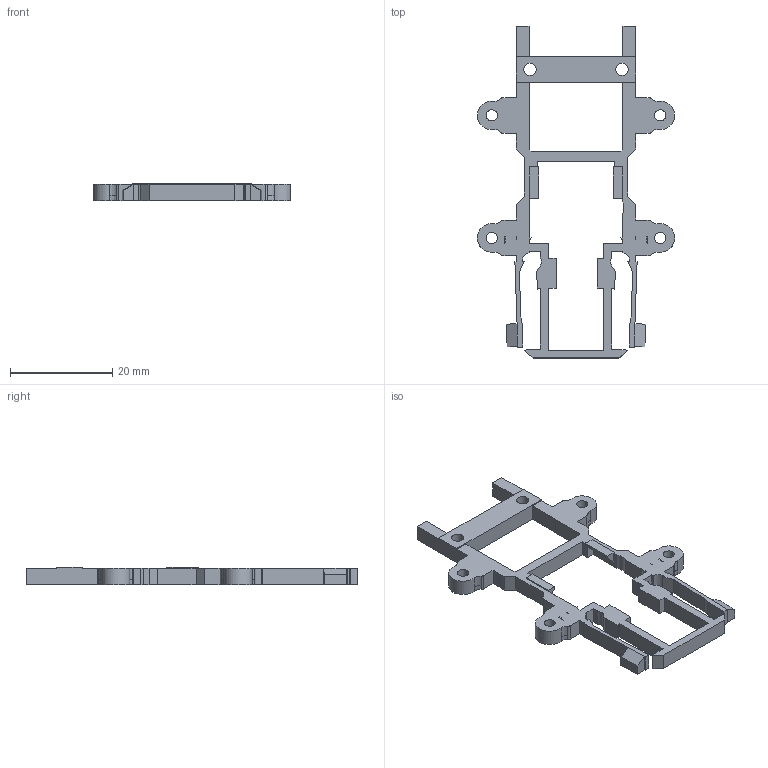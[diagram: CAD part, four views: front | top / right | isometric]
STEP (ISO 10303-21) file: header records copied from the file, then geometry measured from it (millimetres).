
FILE_DESCRIPTION(('Open CASCADE Model'),'2;1');
FILE_NAME('Open CASCADE Shape Model','2026-10-19T13:30:38',('Author'),( 'Open CASCADE'),'Open CASCADE STEP processor 7.9','Open CASCADE 7.9' ,'Unknown');
FILE_SCHEMA(('AUTOMOTIVE_DESIGN { 1 0 10303 214 1 1 1 1 }'));
Length unit declared in the file: millimetre
Products named in the file (1): Open CASCADE STEP translator 7.9 2
Bounding box: 38.6 x 65 x 3.4 mm (x, y, z)
Volume: 2124.4 mm3; surface area: 3151.8 mm2
Topology: 1 solids, 1 shells, 206 faces, 595 edges, 396 vertices
Faces by surface type: plane 156, cylinder 34, bspline 8, extrusion 8
Full cylindrical faces by diameter (mm): 2.2 x4, 2.4 x2, 4.1 x2
Entity records: 15541 total; most frequent: CARTESIAN_POINT 3820, DIRECTION 2088, VECTOR 1519, LINE 1511, ORIENTED_EDGE 1190, PCURVE 1190, DEFINITIONAL_REPRESENTATION 1190, EDGE_CURVE 595
